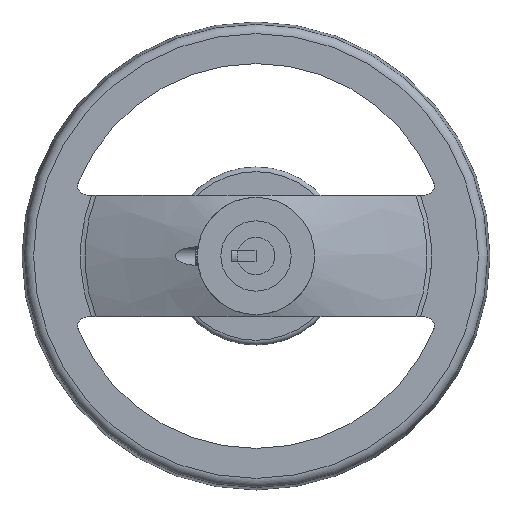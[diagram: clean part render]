
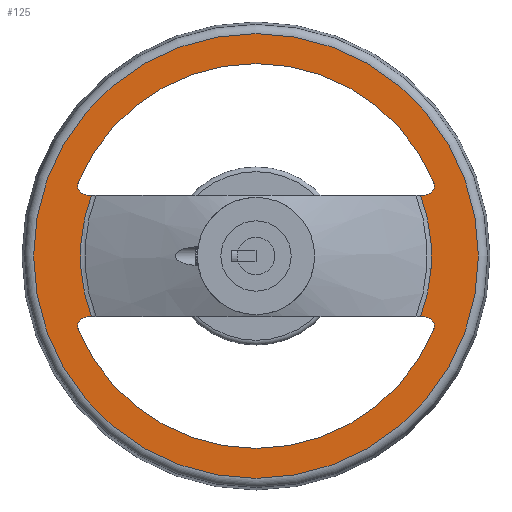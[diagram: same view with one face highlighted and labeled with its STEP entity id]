
A CAD part, left-side view. The second image highlights one B-rep face of the part: STEP entity #125.
In plain terms, the highlighted planar face has unit normal (-1, 0, 0).
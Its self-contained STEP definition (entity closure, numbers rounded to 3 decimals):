
#125 = ADVANCED_FACE( '', ( #266, #267, #268, #269 ), #270, .F. );
#266 = FACE_BOUND( '', #448, .T. );
#267 = FACE_BOUND( '', #449, .T. );
#268 = FACE_OUTER_BOUND( '', #450, .T. );
#269 = FACE_BOUND( '', #451, .T. );
#270 = PLANE( '', #452 );
#448 = EDGE_LOOP( '', ( #872, #873, #874, #875 ) );
#449 = EDGE_LOOP( '', ( #876, #877, #878, #879 ) );
#450 = EDGE_LOOP( '', ( #880 ) );
#451 = EDGE_LOOP( '', ( #881, #882, #883, #884 ) );
#452 = AXIS2_PLACEMENT_3D( '', #885, #886, #887 );
#872 = ORIENTED_EDGE( '', *, *, #1128, .F. );
#873 = ORIENTED_EDGE( '', *, *, #1027, .F. );
#874 = ORIENTED_EDGE( '', *, *, #1031, .F. );
#875 = ORIENTED_EDGE( '', *, *, #1129, .F. );
#876 = ORIENTED_EDGE( '', *, *, #1090, .F. );
#877 = ORIENTED_EDGE( '', *, *, #1130, .F. );
#878 = ORIENTED_EDGE( '', *, *, #1070, .F. );
#879 = ORIENTED_EDGE( '', *, *, #1065, .F. );
#880 = ORIENTED_EDGE( '', *, *, #1131, .T. );
#881 = ORIENTED_EDGE( '', *, *, #1081, .F. );
#882 = ORIENTED_EDGE( '', *, *, #1085, .F. );
#883 = ORIENTED_EDGE( '', *, *, #1087, .F. );
#884 = ORIENTED_EDGE( '', *, *, #1088, .F. );
#885 = CARTESIAN_POINT( '', ( 33., -94.9, 0. ) );
#886 = DIRECTION( '', ( 1., 0., 0. ) );
#887 = DIRECTION( '', ( 0., 0., -1. ) );
#1027 = EDGE_CURVE( '', #1184, #1186, #1187, .T. );
#1031 = EDGE_CURVE( '', #1191, #1184, #1193, .T. );
#1065 = EDGE_CURVE( '', #1251, #1252, #1253, .F. );
#1070 = EDGE_CURVE( '', #1252, #1261, #1262, .F. );
#1081 = EDGE_CURVE( '', #1278, #1280, #1281, .F. );
#1085 = EDGE_CURVE( '', #1284, #1278, #1286, .F. );
#1087 = EDGE_CURVE( '', #1287, #1284, #1289, .F. );
#1088 = EDGE_CURVE( '', #1280, #1287, #1290, .T. );
#1090 = EDGE_CURVE( '', #1291, #1251, #1293, .F. );
#1128 = EDGE_CURVE( '', #1186, #1355, #1356, .T. );
#1129 = EDGE_CURVE( '', #1355, #1191, #1357, .T. );
#1130 = EDGE_CURVE( '', #1261, #1291, #1358, .T. );
#1131 = EDGE_CURVE( '', #1359, #1359, #1360, .T. );
#1184 = VERTEX_POINT( '', #1504 );
#1186 = VERTEX_POINT( '', #1511 );
#1187 = LINE( '', #1512, #1513 );
#1191 = VERTEX_POINT( '', #1522 );
#1193 = CIRCLE( '', #1531, 74.896 );
#1251 = VERTEX_POINT( '', #1648 );
#1252 = VERTEX_POINT( '', #1649 );
#1253 = CIRCLE( '', #1650, 82.1 );
#1261 = VERTEX_POINT( '', #1681 );
#1262 = CIRCLE( '', #1682, 4. );
#1278 = VERTEX_POINT( '', #1816 );
#1280 = VERTEX_POINT( '', #1819 );
#1281 = CIRCLE( '', #1820, 4. );
#1284 = VERTEX_POINT( '', #1824 );
#1286 = CIRCLE( '', #1827, 82.1 );
#1287 = VERTEX_POINT( '', #1828 );
#1289 = CIRCLE( '', #1831, 4. );
#1290 = LINE( '', #1832, #1833 );
#1291 = VERTEX_POINT( '', #1834 );
#1293 = CIRCLE( '', #1837, 4. );
#1355 = VERTEX_POINT( '', #2028 );
#1356 = CIRCLE( '', #2029, 74.896 );
#1357 = LINE( '', #2030, #2031 );
#1358 = LINE( '', #2032, #2033 );
#1359 = VERTEX_POINT( '', #2034 );
#1360 = CIRCLE( '', #2035, 94.9 );
#1504 = CARTESIAN_POINT( '', ( 33., 70.239, -25.999 ) );
#1511 = CARTESIAN_POINT( '', ( 33., -70.239, -25.999 ) );
#1512 = CARTESIAN_POINT( '', ( 33., 200., -25.999 ) );
#1513 = VECTOR( '', #2101, 1000. );
#1522 = CARTESIAN_POINT( '', ( 33., 70.239, 25.999 ) );
#1531 = AXIS2_PLACEMENT_3D( '', #2105, #2106, #2107 );
#1648 = CARTESIAN_POINT( '', ( 33., 75.801, -31.536 ) );
#1649 = CARTESIAN_POINT( '', ( 33., -75.801, -31.536 ) );
#1650 = AXIS2_PLACEMENT_3D( '', #2162, #2163, #2164 );
#1681 = CARTESIAN_POINT( '', ( 33., -72.108, -26. ) );
#1682 = AXIS2_PLACEMENT_3D( '', #2170, #2171, #2172 );
#1816 = CARTESIAN_POINT( '', ( 33., 75.801, 31.536 ) );
#1819 = CARTESIAN_POINT( '', ( 33., 72.108, 26. ) );
#1820 = AXIS2_PLACEMENT_3D( '', #2184, #2185, #2186 );
#1824 = CARTESIAN_POINT( '', ( 33., -75.801, 31.536 ) );
#1827 = AXIS2_PLACEMENT_3D( '', #2192, #2193, #2194 );
#1828 = CARTESIAN_POINT( '', ( 33., -72.108, 26. ) );
#1831 = AXIS2_PLACEMENT_3D( '', #2196, #2197, #2198 );
#1832 = CARTESIAN_POINT( '', ( 33., -94.9, 26. ) );
#1833 = VECTOR( '', #2199, 1000. );
#1834 = CARTESIAN_POINT( '', ( 33., 72.108, -26. ) );
#1837 = AXIS2_PLACEMENT_3D( '', #2201, #2202, #2203 );
#2028 = CARTESIAN_POINT( '', ( 33., -70.239, 25.999 ) );
#2029 = AXIS2_PLACEMENT_3D( '', #2258, #2259, #2260 );
#2030 = CARTESIAN_POINT( '', ( 33., -200., 25.999 ) );
#2031 = VECTOR( '', #2261, 1000. );
#2032 = CARTESIAN_POINT( '', ( 33., -94.9, -26. ) );
#2033 = VECTOR( '', #2262, 1000. );
#2034 = CARTESIAN_POINT( '', ( 33., 0., 94.9 ) );
#2035 = AXIS2_PLACEMENT_3D( '', #2263, #2264, #2265 );
#2101 = DIRECTION( '', ( 0., -1., 0. ) );
#2105 = CARTESIAN_POINT( '', ( 33., 0., 0. ) );
#2106 = DIRECTION( '', ( -1., 0., 0. ) );
#2107 = DIRECTION( '', ( 0., 0., 1. ) );
#2162 = CARTESIAN_POINT( '', ( 33., 0., 0. ) );
#2163 = DIRECTION( '', ( 1., 0., 0. ) );
#2164 = DIRECTION( '', ( 0., 0., -1. ) );
#2170 = CARTESIAN_POINT( '', ( 33., -72.108, -30. ) );
#2171 = DIRECTION( '', ( 1., 0., 0. ) );
#2172 = DIRECTION( '', ( 0., 0., -1. ) );
#2184 = CARTESIAN_POINT( '', ( 33., 72.108, 30. ) );
#2185 = DIRECTION( '', ( 1., 0., 0. ) );
#2186 = DIRECTION( '', ( 0., 0., -1. ) );
#2192 = CARTESIAN_POINT( '', ( 33., 0., 0. ) );
#2193 = DIRECTION( '', ( 1., 0., 0. ) );
#2194 = DIRECTION( '', ( 0., 0., -1. ) );
#2196 = CARTESIAN_POINT( '', ( 33., -72.108, 30. ) );
#2197 = DIRECTION( '', ( 1., 0., 0. ) );
#2198 = DIRECTION( '', ( 0., 0., -1. ) );
#2199 = DIRECTION( '', ( 0., -1., 0. ) );
#2201 = CARTESIAN_POINT( '', ( 33., 72.108, -30. ) );
#2202 = DIRECTION( '', ( 1., 0., 0. ) );
#2203 = DIRECTION( '', ( 0., 0., -1. ) );
#2258 = CARTESIAN_POINT( '', ( 33., 0., 0. ) );
#2259 = DIRECTION( '', ( -1., 0., 0. ) );
#2260 = DIRECTION( '', ( 0., 0., 1. ) );
#2261 = DIRECTION( '', ( 0., 1., 0. ) );
#2262 = DIRECTION( '', ( 0., 1., 0. ) );
#2263 = CARTESIAN_POINT( '', ( 33., 0., 0. ) );
#2264 = DIRECTION( '', ( -1., 0., 0. ) );
#2265 = DIRECTION( '', ( 0., 0., 1. ) );
